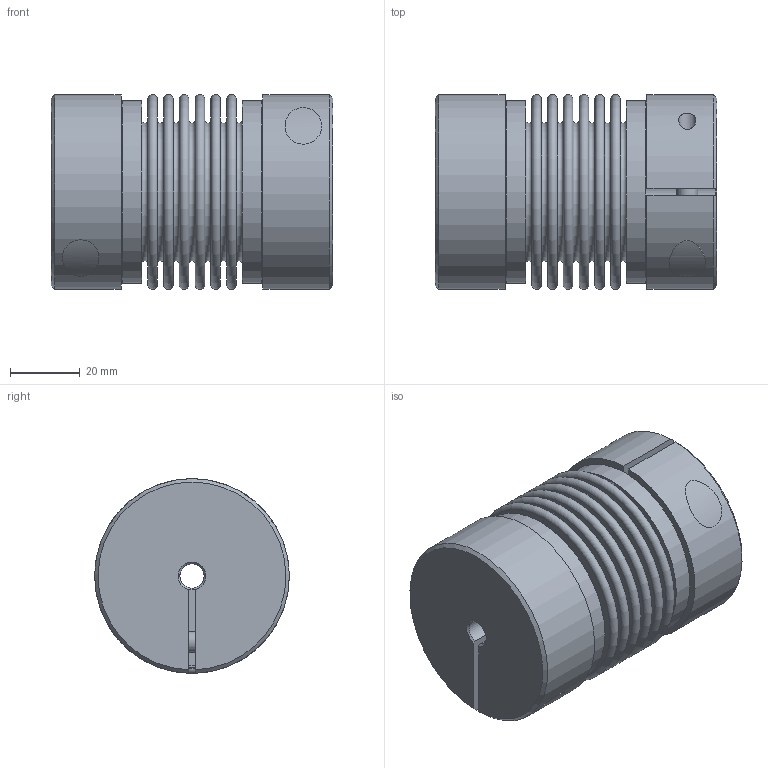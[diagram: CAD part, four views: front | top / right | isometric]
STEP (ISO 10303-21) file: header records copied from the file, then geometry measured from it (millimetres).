
FILE_DESCRIPTION(/* description */ ('Unknown'),/* implementation_level */ '2;1');
FILE_NAME(/* name */ 'KM 35 - 81',/* time_stamp */ '2020-04-30T14:43:29+03:00',/* author */ ('Unknown'),/* organization */ ('Unknown'),/* preprocessor_version */ 'ST-DEVELOPER v16.7',/* originating_system */ 'DEX',/* authorisation */ $);
FILE_SCHEMA (('AUTOMOTIVE_DESIGN {1 0 10303 214 3 1 1}'));
Length unit declared in the file: millimetre
Products named in the file (1): KM 35 - 81
Bounding box: 81 x 56 x 56 mm (x, y, z)
Volume: 125975 mm3; surface area: 59164.1 mm2
Topology: 1 solids, 3 shells, 190 faces, 436 edges, 286 vertices
Faces by surface type: plane 115, cylinder 39, torus 28, cone 8
Full cylindrical faces by diameter (mm): 5 x2, 6 x2, 6.4 x2, 10 x2, 10.5 x2, 52.6 x2
Entity records: 5242 total; most frequent: CARTESIAN_POINT 999, DIRECTION 884, ORIENTED_EDGE 760, EDGE_CURVE 380, AXIS2_PLACEMENT_3D 329, FACE_BOUND 300, EDGE_LOOP 298, VERTEX_POINT 274
